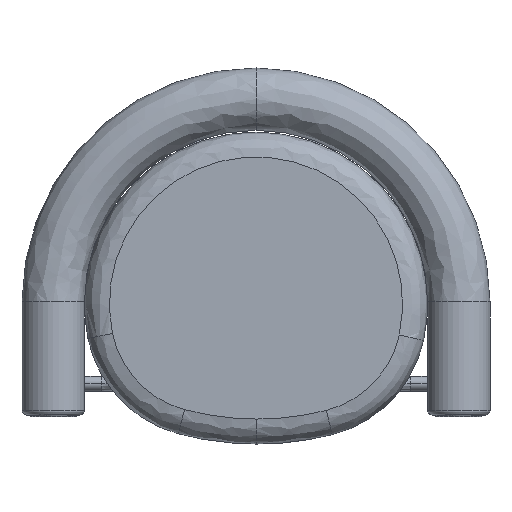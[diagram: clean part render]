
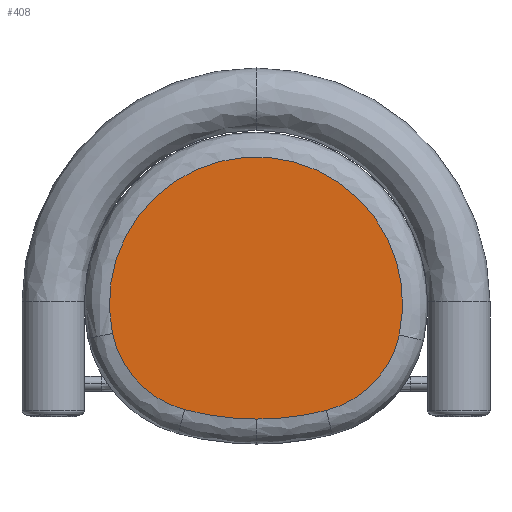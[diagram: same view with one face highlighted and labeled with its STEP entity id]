
A CAD part, top view. The second image highlights one B-rep face of the part: STEP entity #408.
In plain terms, the highlighted planar face has unit normal (0, 0, 1) as drawn and (0, 1, 0) by its records, which use the part's own axes.
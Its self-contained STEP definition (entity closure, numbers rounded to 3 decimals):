
#408=ADVANCED_FACE('',(#642),#3608,.T.);
#642=FACE_OUTER_BOUND('',#887,.T.);
#887=EDGE_LOOP('',(#1722,#1723,#1724,#1725,#1726));
#1722=ORIENTED_EDGE('',*,*,#2338,.F.);
#1723=ORIENTED_EDGE('',*,*,#2370,.T.);
#1724=ORIENTED_EDGE('',*,*,#2374,.T.);
#1725=ORIENTED_EDGE('',*,*,#2372,.T.);
#1726=ORIENTED_EDGE('',*,*,#2368,.T.);
#2338=EDGE_CURVE('',#3477,#3478,#2904,.T.);
#2368=EDGE_CURVE('',#3492,#3478,#2928,.T.);
#2370=EDGE_CURVE('',#3477,#3490,#2930,.T.);
#2372=EDGE_CURVE('',#3491,#3492,#2932,.T.);
#2374=EDGE_CURVE('',#3490,#3491,#2934,.T.);
#2904=TRIMMED_CURVE($,#3175,(#11932),(#11933),.T.,.CARTESIAN.);
#2928=TRIMMED_CURVE($,#3199,(#12016),(#12017),.T.,.CARTESIAN.);
#2930=TRIMMED_CURVE($,#3201,(#12022),(#12023),.T.,.CARTESIAN.);
#2932=TRIMMED_CURVE($,#3203,(#12028),(#12029),.T.,.CARTESIAN.);
#2934=TRIMMED_CURVE($,#3205,(#12034),(#12035),.T.,.CARTESIAN.);
#3175=CIRCLE('',#5490,361.881);
#3199=CIRCLE('',#5514,128.);
#3201=CIRCLE('',#5516,361.881);
#3203=CIRCLE('',#5518,188.);
#3205=CIRCLE('',#5520,128.);
#3477=VERTEX_POINT('',#11907);
#3478=VERTEX_POINT('',#11908);
#3490=VERTEX_POINT('',#11920);
#3491=VERTEX_POINT('',#11921);
#3492=VERTEX_POINT('',#11922);
#3608=PLANE('',#5484);
#5484=AXIS2_PLACEMENT_3D('',#11253,#6199,$);
#5490=AXIS2_PLACEMENT_3D($,#11931,#6206,#6207);
#5514=AXIS2_PLACEMENT_3D($,#12015,#6254,#6255);
#5516=AXIS2_PLACEMENT_3D($,#12021,#6258,#6259);
#5518=AXIS2_PLACEMENT_3D($,#12027,#6262,#6263);
#5520=AXIS2_PLACEMENT_3D($,#12033,#6266,#6267);
#6199=DIRECTION('',(0.,1.,0.));
#6206=DIRECTION('',(0.,-1.,0.));
#6207=DIRECTION('',(0.,0.,1.));
#6254=DIRECTION('',(0.,1.,0.));
#6255=DIRECTION('',(-0.979,0.,0.203));
#6258=DIRECTION('',(0.,1.,0.));
#6259=DIRECTION('',(0.,0.,1.));
#6262=DIRECTION('',(0.,1.,0.));
#6263=DIRECTION('',(0.977,0.,0.214));
#6266=DIRECTION('',(0.,1.,0.));
#6267=DIRECTION('',(0.246,0.,0.969));
#11253=CARTESIAN_POINT('',(-242.842,45.,-222.146));
#11907=CARTESIAN_POINT('',(1.186,45.,148.016));
#11908=CARTESIAN_POINT('',(-91.545,45.,135.934));
#11920=CARTESIAN_POINT('',(90.031,45.,136.941));
#11921=CARTESIAN_POINT('',(183.632,45.,40.289));
#11922=CARTESIAN_POINT('',(-184.068,45.,38.25));
#11931=CARTESIAN_POINT('',(1.186,45.,-213.864));
#11932=CARTESIAN_POINT('',(1.186,45.,148.016));
#11933=CARTESIAN_POINT('',(-91.545,45.,135.934));
#12015=CARTESIAN_POINT('',(-58.745,45.,12.207));
#12016=CARTESIAN_POINT('',(-184.068,45.,38.25));
#12017=CARTESIAN_POINT('',(-91.545,45.,135.934));
#12021=CARTESIAN_POINT('',(1.186,45.,-213.864));
#12022=CARTESIAN_POINT('',(1.186,45.,148.016));
#12023=CARTESIAN_POINT('',(90.031,45.,136.941));
#12027=CARTESIAN_POINT('',(0.,45.,0.));
#12028=CARTESIAN_POINT('',(183.632,45.,40.289));
#12029=CARTESIAN_POINT('',(-184.068,45.,38.25));
#12033=CARTESIAN_POINT('',(58.606,45.,12.858));
#12034=CARTESIAN_POINT('',(90.031,45.,136.941));
#12035=CARTESIAN_POINT('',(183.632,45.,40.289));
